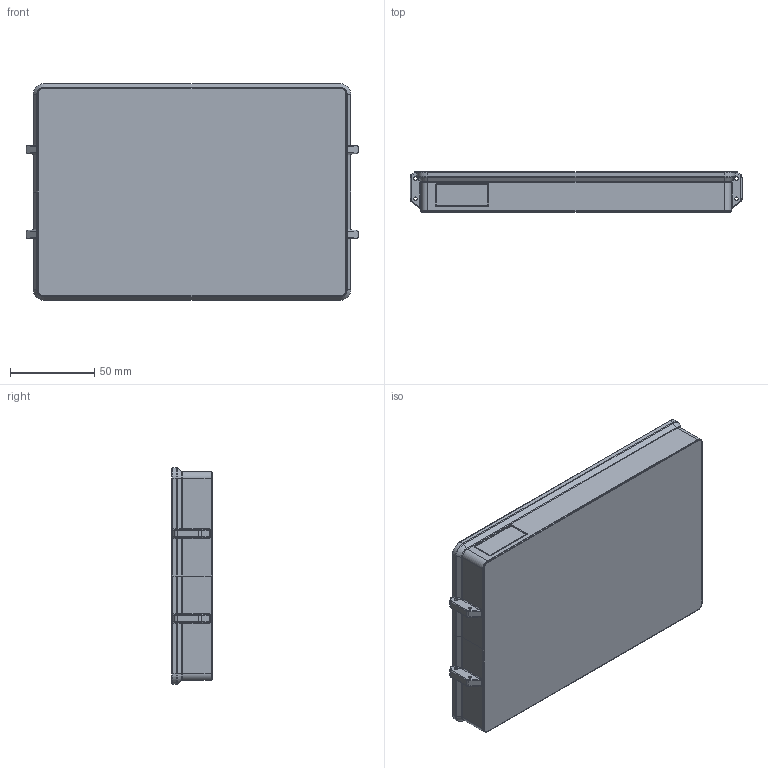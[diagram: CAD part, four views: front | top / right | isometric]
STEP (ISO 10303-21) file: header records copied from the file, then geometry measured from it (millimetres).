
FILE_DESCRIPTION (( 'STEP AP214' ), '1' );
FILE_NAME ('Tiered Storage Box 180x120x22 6 Cell Var 3.STEP', '2024-06-06T19:20:20', ( '' ), ( '' ), 'SwSTEP 2.0', 'SolidWorks 2022', '' );
FILE_SCHEMA (( 'AUTOMOTIVE_DESIGN' ));
Length unit declared in the file: millimetre
Products named in the file (1): Tiered Storage Box 180x120x22 6 Cell Var 3
Bounding box: 197 x 24 x 128.4 mm (x, y, z)
Volume: 91594.7 mm3; surface area: 92457.6 mm2
Topology: 1 solids, 1 shells, 502 faces, 1158 edges, 625 vertices
Faces by surface type: cylinder 218, plane 110, torus 90, bspline 52, sphere 20, cone 12
Entity records: 15088 total; most frequent: CARTESIAN_POINT 3976, DIRECTION 2488, ORIENTED_EDGE 2264, EDGE_CURVE 1132, AXIS2_PLACEMENT_3D 1001, VERTEX_POINT 625, CIRCLE 550, EDGE_LOOP 511
